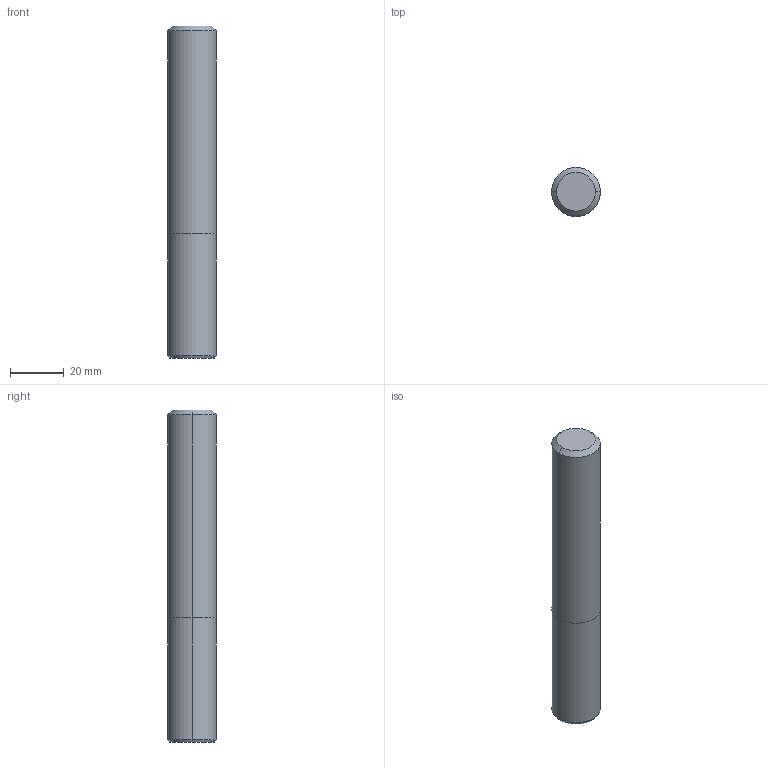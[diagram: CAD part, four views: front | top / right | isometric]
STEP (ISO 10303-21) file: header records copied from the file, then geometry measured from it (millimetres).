
FILE_DESCRIPTION (( 'STEP AP214' ), '1' );
FILE_NAME ('817.180.00_3D-model.step', '2022-02-24T00:24:53', ( '' ), ( '' ), 'SwSTEP 2.0', 'SolidWorks 2020', '' );
FILE_SCHEMA (( 'AUTOMOTIVE_DESIGN' ));
Length unit declared in the file: millimetre
Products named in the file (3): CUT-3D^Baugr18; NOCUT-3D^Baugr18; 817.180.00_3D-model
Assembly tree (2 placements, depth 2):
  817.180.00_3D-model
    CUT-3D^Baugr18
    NOCUT-3D^Baugr18
Bounding box: 18 x 18 x 123 mm (x, y, z)
Volume: 31201.2 mm3; surface area: 7887.2 mm2
Topology: 2 solids, 2 shells, 12 faces, 20 edges, 12 vertices
Faces by surface type: cylinder 4, cone 4, plane 4
Entity records: 406 total; most frequent: DIRECTION 72, CARTESIAN_POINT 52, ORIENTED_EDGE 40, AXIS2_PLACEMENT_3D 32, EDGE_CURVE 20, FACE_OUTER_BOUND 12, EDGE_LOOP 12, CIRCLE 12
